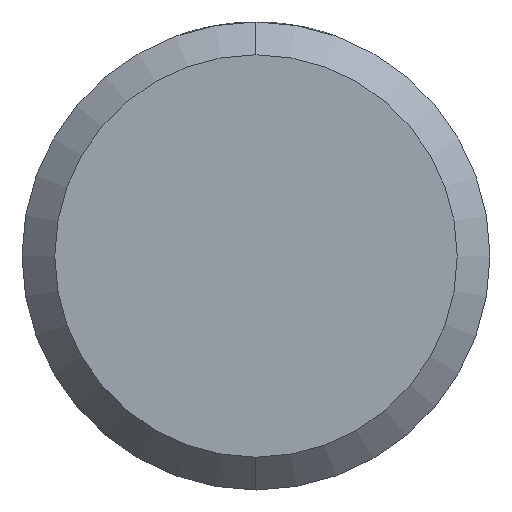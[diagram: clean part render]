
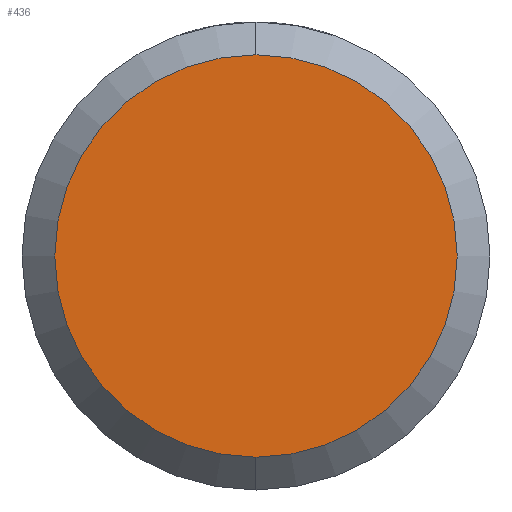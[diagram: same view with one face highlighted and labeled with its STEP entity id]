
A CAD part, left-side view. The second image highlights one B-rep face of the part: STEP entity #436.
In plain terms, the highlighted planar face has unit normal (-1, 0, 0).
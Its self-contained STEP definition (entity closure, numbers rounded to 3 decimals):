
#10 = DIRECTION ( 'NONE',  ( 0., 0., -1. ) ) ;
#14 = DIRECTION ( 'NONE',  ( 1., 0., 0. ) ) ;
#22 = CARTESIAN_POINT ( 'NONE',  ( -34.25, 0., 0. ) ) ;
#30 = CARTESIAN_POINT ( 'NONE',  ( -34.25, 0., -2.15 ) ) ;
#52 = VERTEX_POINT ( 'NONE', #749 ) ;
#54 = VERTEX_POINT ( 'NONE', #30 ) ;
#69 = ORIENTED_EDGE ( 'NONE', *, *, #424, .F. ) ;
#84 = CARTESIAN_POINT ( 'NONE',  ( -34.25, 0., 0. ) ) ;
#85 = ORIENTED_EDGE ( 'NONE', *, *, #476, .F. ) ;
#122 = CIRCLE ( 'NONE', #837, 2.15 ) ;
#218 = CIRCLE ( 'NONE', #294, 2.15 ) ;
#294 = AXIS2_PLACEMENT_3D ( 'NONE', #899, #979, #10 ) ;
#364 = PLANE ( 'NONE',  #1100 ) ;
#424 = EDGE_CURVE ( 'NONE', #52, #54, #218, .T. ) ;
#436 = ADVANCED_FACE ( 'NONE', ( #524 ), #364, .T. ) ;
#444 = DIRECTION ( 'NONE',  ( -1., 0., 0. ) ) ;
#476 = EDGE_CURVE ( 'NONE', #54, #52, #122, .T. ) ;
#524 = FACE_OUTER_BOUND ( 'NONE', #669, .T. ) ;
#669 = EDGE_LOOP ( 'NONE', ( #85, #69 ) ) ;
#717 = DIRECTION ( 'NONE',  ( 0., -1., 0. ) ) ;
#749 = CARTESIAN_POINT ( 'NONE',  ( -34.25, 0., 2.15 ) ) ;
#837 = AXIS2_PLACEMENT_3D ( 'NONE', #22, #14, #914 ) ;
#899 = CARTESIAN_POINT ( 'NONE',  ( -34.25, 0., 0. ) ) ;
#914 = DIRECTION ( 'NONE',  ( 0., 0., -1. ) ) ;
#979 = DIRECTION ( 'NONE',  ( 1., 0., 0. ) ) ;
#1100 = AXIS2_PLACEMENT_3D ( 'NONE', #84, #444, #717 ) ;
